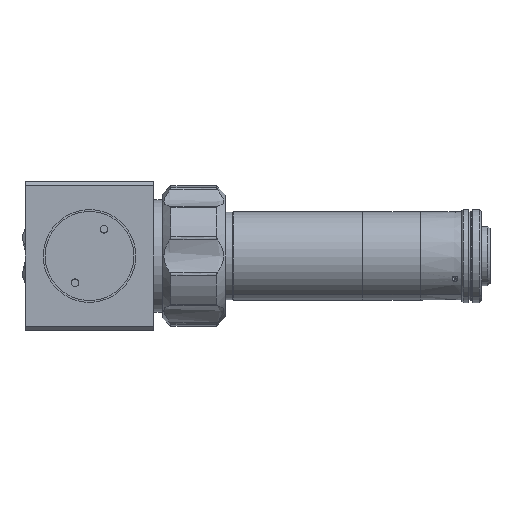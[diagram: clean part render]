
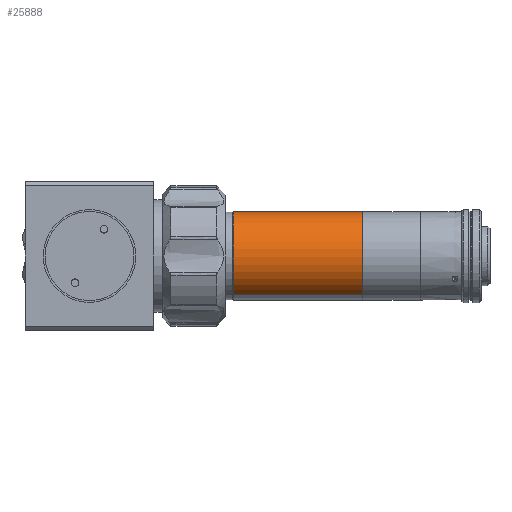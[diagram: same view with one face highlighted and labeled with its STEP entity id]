
A CAD part, front view. The second image highlights one B-rep face of the part: STEP entity #25888.
In plain terms, the highlighted face is a revolution surface.
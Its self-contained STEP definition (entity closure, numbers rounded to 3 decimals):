
#25888 = ADVANCED_FACE('',(#25889),#25904,.T.);
#25889 = FACE_BOUND('',#25890,.T.);
#25890 = EDGE_LOOP('',(#25891,#25917,#25932,#25948));
#25891 = ORIENTED_EDGE('',*,*,#25892,.F.);
#25892 = EDGE_CURVE('',#25893,#25895,#25897,.T.);
#25893 = VERTEX_POINT('',#25894);
#25894 = CARTESIAN_POINT('',(61.504,9.094,16.511));
#25895 = VERTEX_POINT('',#25896);
#25896 = CARTESIAN_POINT('',(61.504,-9.094,-16.511));
#25897 = SURFACE_CURVE('',#25898,(#25903),.PCURVE_S1.);
#25898 = CIRCLE('',#25899,18.85);
#25899 = AXIS2_PLACEMENT_3D('',#25900,#25901,#25902);
#25900 = CARTESIAN_POINT('',(61.504,0.,
    0.));
#25901 = DIRECTION('',(1.,0.,0.));
#25902 = DIRECTION('',(0.,0.482,0.876)
  );
#25903 = PCURVE('',#25904,#25912);
#25904 = SURFACE_OF_REVOLUTION('',#25905,#25909);
#25905 = LINE('',#25906,#25907);
#25906 = CARTESIAN_POINT('',(116.874,9.094,16.511));
#25907 = VECTOR('',#25908,1.);
#25908 = DIRECTION('',(-1.,0.,0.));
#25909 = AXIS1_PLACEMENT('',#25910,#25911);
#25910 = CARTESIAN_POINT('',(-0.878,0.,0.));
#25911 = DIRECTION('',(1.,0.,0.));
#25912 = DEFINITIONAL_REPRESENTATION('',(#25913),#25916);
#25913 = B_SPLINE_CURVE_WITH_KNOTS('',1,(#25914,#25915),.UNSPECIFIED.,
  .F.,.F.,(2,2),(0.,3.142),.PIECEWISE_BEZIER_KNOTS.);
#25914 = CARTESIAN_POINT('',(0.,55.37));
#25915 = CARTESIAN_POINT('',(3.142,55.37));
#25916 = ( GEOMETRIC_REPRESENTATION_CONTEXT(2) 
PARAMETRIC_REPRESENTATION_CONTEXT() REPRESENTATION_CONTEXT('',''
  ) );
#25917 = ORIENTED_EDGE('',*,*,#25918,.F.);
#25918 = EDGE_CURVE('',#25919,#25893,#25921,.T.);
#25919 = VERTEX_POINT('',#25920);
#25920 = CARTESIAN_POINT('',(116.874,9.094,16.511));
#25921 = SURFACE_CURVE('',#25922,(#25926),.PCURVE_S1.);
#25922 = LINE('',#25923,#25924);
#25923 = CARTESIAN_POINT('',(116.874,9.094,16.511));
#25924 = VECTOR('',#25925,1.);
#25925 = DIRECTION('',(-1.,0.,0.));
#25926 = PCURVE('',#25904,#25927);
#25927 = DEFINITIONAL_REPRESENTATION('',(#25928),#25931);
#25928 = B_SPLINE_CURVE_WITH_KNOTS('',1,(#25929,#25930),.UNSPECIFIED.,
  .F.,.F.,(2,2),(0.,55.37),.PIECEWISE_BEZIER_KNOTS.);
#25929 = CARTESIAN_POINT('',(0.,0.));
#25930 = CARTESIAN_POINT('',(0.,55.37));
#25931 = ( GEOMETRIC_REPRESENTATION_CONTEXT(2) 
PARAMETRIC_REPRESENTATION_CONTEXT() REPRESENTATION_CONTEXT('',''
  ) );
#25932 = ORIENTED_EDGE('',*,*,#25933,.F.);
#25933 = EDGE_CURVE('',#25934,#25919,#25936,.T.);
#25934 = VERTEX_POINT('',#25935);
#25935 = CARTESIAN_POINT('',(116.874,-9.094,-16.511));
#25936 = SURFACE_CURVE('',#25937,(#25942),.PCURVE_S1.);
#25937 = CIRCLE('',#25938,18.85);
#25938 = AXIS2_PLACEMENT_3D('',#25939,#25940,#25941);
#25939 = CARTESIAN_POINT('',(116.874,0.,
    0.));
#25940 = DIRECTION('',(-1.,0.,0.));
#25941 = DIRECTION('',(0.,-0.482,
    -0.876));
#25942 = PCURVE('',#25904,#25943);
#25943 = DEFINITIONAL_REPRESENTATION('',(#25944),#25947);
#25944 = B_SPLINE_CURVE_WITH_KNOTS('',1,(#25945,#25946),.UNSPECIFIED.,
  .F.,.F.,(2,2),(0.,3.142),.PIECEWISE_BEZIER_KNOTS.);
#25945 = CARTESIAN_POINT('',(3.142,0.));
#25946 = CARTESIAN_POINT('',(0.,0.));
#25947 = ( GEOMETRIC_REPRESENTATION_CONTEXT(2) 
PARAMETRIC_REPRESENTATION_CONTEXT() REPRESENTATION_CONTEXT('',''
  ) );
#25948 = ORIENTED_EDGE('',*,*,#25949,.F.);
#25949 = EDGE_CURVE('',#25895,#25934,#25950,.T.);
#25950 = SURFACE_CURVE('',#25951,(#25955),.PCURVE_S1.);
#25951 = LINE('',#25952,#25953);
#25952 = CARTESIAN_POINT('',(61.504,-9.094,-16.511));
#25953 = VECTOR('',#25954,1.);
#25954 = DIRECTION('',(1.,0.,0.));
#25955 = PCURVE('',#25904,#25956);
#25956 = DEFINITIONAL_REPRESENTATION('',(#25957),#25960);
#25957 = B_SPLINE_CURVE_WITH_KNOTS('',1,(#25958,#25959),.UNSPECIFIED.,
  .F.,.F.,(2,2),(0.,55.37),.PIECEWISE_BEZIER_KNOTS.);
#25958 = CARTESIAN_POINT('',(3.142,55.37));
#25959 = CARTESIAN_POINT('',(3.142,0.));
#25960 = ( GEOMETRIC_REPRESENTATION_CONTEXT(2) 
PARAMETRIC_REPRESENTATION_CONTEXT() REPRESENTATION_CONTEXT('',''
  ) );
